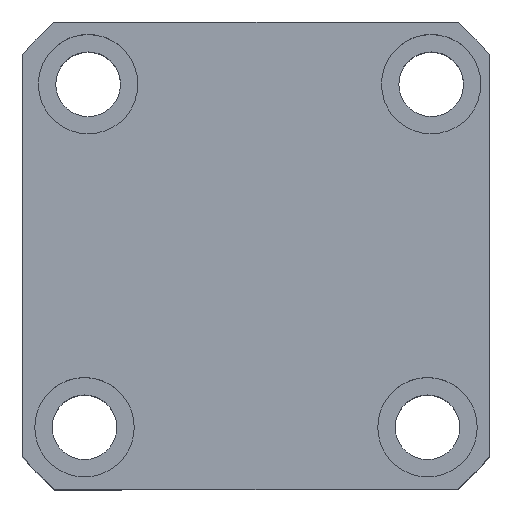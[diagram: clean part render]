
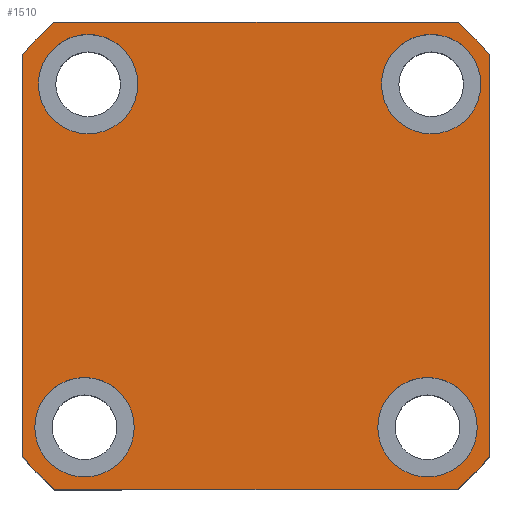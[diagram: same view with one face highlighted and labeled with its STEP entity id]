
A CAD part, top view. The second image highlights one B-rep face of the part: STEP entity #1510.
In plain terms, the highlighted planar face has unit normal (0, 0, 1) as drawn and (0, 0, -1) by its records, which use the part's own axes.
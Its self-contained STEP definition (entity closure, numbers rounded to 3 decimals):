
#244 = EDGE_CURVE ( 'NONE', #12025, #11420, #5661, .T. ) ;
#257 = FACE_BOUND ( 'NONE', #16293, .T. ) ;
#597 = VERTEX_POINT ( 'NONE', #14739 ) ;
#990 = DIRECTION ( 'NONE',  ( 1., 0., 0. ) ) ;
#1345 = CARTESIAN_POINT ( 'NONE',  ( 45.23, -34.5, 0. ) ) ;
#1382 = LINE ( 'NONE', #16254, #9189 ) ;
#1388 = CARTESIAN_POINT ( 'NONE',  ( 44.5, 34.5, 0. ) ) ;
#1510 = ADVANCED_FACE ( 'NONE', ( #14868, #4371, #257, #14449, #3933 ), #6510, .F. ) ;
#1556 = ORIENTED_EDGE ( 'NONE', *, *, #11514, .F. ) ;
#1712 = CIRCLE ( 'NONE', #11713, 10. ) ;
#1716 = VERTEX_POINT ( 'NONE', #5533 ) ;
#1844 = EDGE_CURVE ( 'NONE', #13152, #7749, #15499, .T. ) ;
#2021 = CIRCLE ( 'NONE', #10496, 62. ) ;
#2037 = VERTEX_POINT ( 'NONE', #14514 ) ;
#2469 = DIRECTION ( 'NONE',  ( 0., 0., -1. ) ) ;
#2503 = CIRCLE ( 'NONE', #17177, 10. ) ;
#2783 = DIRECTION ( 'NONE',  ( -1., 0., 0. ) ) ;
#2875 = ORIENTED_EDGE ( 'NONE', *, *, #6853, .F. ) ;
#2959 = EDGE_CURVE ( 'NONE', #14108, #4751, #3478, .T. ) ;
#3023 = ORIENTED_EDGE ( 'NONE', *, *, #12471, .F. ) ;
#3055 = EDGE_CURVE ( 'NONE', #2037, #14108, #13992, .T. ) ;
#3259 = EDGE_CURVE ( 'NONE', #17259, #13177, #12728, .T. ) ;
#3406 = DIRECTION ( 'NONE',  ( 0., 0., -1. ) ) ;
#3478 = LINE ( 'NONE', #5469, #10811 ) ;
#3672 = CARTESIAN_POINT ( 'NONE',  ( -40.435, -47., 0. ) ) ;
#3826 = VERTEX_POINT ( 'NONE', #13453 ) ;
#3933 = FACE_OUTER_BOUND ( 'NONE', #8887, .T. ) ;
#4005 = DIRECTION ( 'NONE',  ( 0., 0., -1. ) ) ;
#4066 = CARTESIAN_POINT ( 'NONE',  ( -33.77, -34.5, 0. ) ) ;
#4090 = CIRCLE ( 'NONE', #5853, 10. ) ;
#4156 = DIRECTION ( 'NONE',  ( 0., 0., 1. ) ) ;
#4371 = FACE_BOUND ( 'NONE', #9498, .T. ) ;
#4403 = ORIENTED_EDGE ( 'NONE', *, *, #3259, .F. ) ;
#4432 = AXIS2_PLACEMENT_3D ( 'NONE', #13082, #4876, #14455 ) ;
#4456 = VECTOR ( 'NONE', #6552, 1000. ) ;
#4509 = DIRECTION ( 'NONE',  ( 0., 0., -1. ) ) ;
#4573 = DIRECTION ( 'NONE',  ( 0., 0., -1. ) ) ;
#4575 = EDGE_CURVE ( 'NONE', #9891, #1716, #11650, .T. ) ;
#4605 = DIRECTION ( 'NONE',  ( 0., 0., -1. ) ) ;
#4631 = ORIENTED_EDGE ( 'NONE', *, *, #6927, .F. ) ;
#4751 = VERTEX_POINT ( 'NONE', #7804 ) ;
#4876 = DIRECTION ( 'NONE',  ( 0., 0., 1. ) ) ;
#4913 = AXIS2_PLACEMENT_3D ( 'NONE', #17374, #9292, #990 ) ;
#4946 = CIRCLE ( 'NONE', #11949, 10. ) ;
#5076 = ORIENTED_EDGE ( 'NONE', *, *, #17263, .F. ) ;
#5227 = AXIS2_PLACEMENT_3D ( 'NONE', #7687, #7002, #7125 ) ;
#5345 = DIRECTION ( 'NONE',  ( 1., 0., 0. ) ) ;
#5469 = CARTESIAN_POINT ( 'NONE',  ( -47., -47., 0. ) ) ;
#5533 = CARTESIAN_POINT ( 'NONE',  ( -47., 40.435, 0. ) ) ;
#5610 = CARTESIAN_POINT ( 'NONE',  ( 35.23, -34.5, 0. ) ) ;
#5661 = LINE ( 'NONE', #8331, #9348 ) ;
#5853 = AXIS2_PLACEMENT_3D ( 'NONE', #11657, #3406, #13020 ) ;
#6510 = PLANE ( 'NONE',  #15403 ) ;
#6552 = DIRECTION ( 'NONE',  ( -1., 0., 0. ) ) ;
#6553 = ORIENTED_EDGE ( 'NONE', *, *, #7395, .F. ) ;
#6648 = CARTESIAN_POINT ( 'NONE',  ( 47., 40.435, 0. ) ) ;
#6853 = EDGE_CURVE ( 'NONE', #9054, #597, #2503, .T. ) ;
#6927 = EDGE_CURVE ( 'NONE', #12754, #3826, #16665, .T. ) ;
#6993 = DIRECTION ( 'NONE',  ( -1., 0., 0. ) ) ;
#7002 = DIRECTION ( 'NONE',  ( 0., 0., 1. ) ) ;
#7008 = ORIENTED_EDGE ( 'NONE', *, *, #15155, .F. ) ;
#7125 = DIRECTION ( 'NONE',  ( 1., 0., 0. ) ) ;
#7230 = ORIENTED_EDGE ( 'NONE', *, *, #4575, .F. ) ;
#7324 = EDGE_CURVE ( 'NONE', #11420, #14268, #15376, .T. ) ;
#7395 = EDGE_CURVE ( 'NONE', #14268, #9891, #12195, .T. ) ;
#7687 = CARTESIAN_POINT ( 'NONE',  ( 0., 0., 0. ) ) ;
#7749 = VERTEX_POINT ( 'NONE', #1388 ) ;
#7791 = CARTESIAN_POINT ( 'NONE',  ( -43.77, -34.5, 0. ) ) ;
#7804 = CARTESIAN_POINT ( 'NONE',  ( 40.435, -47., 0. ) ) ;
#7832 = CARTESIAN_POINT ( 'NONE',  ( -40.435, 47., 0. ) ) ;
#8310 = DIRECTION ( 'NONE',  ( 0., 1., 0. ) ) ;
#8331 = CARTESIAN_POINT ( 'NONE',  ( 47., 47., 0. ) ) ;
#8509 = ORIENTED_EDGE ( 'NONE', *, *, #2959, .F. ) ;
#8703 = CARTESIAN_POINT ( 'NONE',  ( -24.5, 34.5, 0. ) ) ;
#8711 = AXIS2_PLACEMENT_3D ( 'NONE', #9765, #11482, #12434 ) ;
#8887 = EDGE_LOOP ( 'NONE', ( #10786, #13966, #3023, #8509, #12962, #1556, #7230, #6553 ) ) ;
#9054 = VERTEX_POINT ( 'NONE', #1345 ) ;
#9189 = VECTOR ( 'NONE', #12156, 1000. ) ;
#9230 = CARTESIAN_POINT ( 'NONE',  ( 40.435, 47., 0. ) ) ;
#9292 = DIRECTION ( 'NONE',  ( 0., 0., 1. ) ) ;
#9348 = VECTOR ( 'NONE', #8310, 1000. ) ;
#9498 = EDGE_LOOP ( 'NONE', ( #12564, #4403 ) ) ;
#9765 = CARTESIAN_POINT ( 'NONE',  ( 34.5, 34.5, 0. ) ) ;
#9891 = VERTEX_POINT ( 'NONE', #7832 ) ;
#10034 = ORIENTED_EDGE ( 'NONE', *, *, #15632, .F. ) ;
#10496 = AXIS2_PLACEMENT_3D ( 'NONE', #12373, #4156, #13728 ) ;
#10535 = CIRCLE ( 'NONE', #11609, 10. ) ;
#10569 = EDGE_LOOP ( 'NONE', ( #14700, #10034 ) ) ;
#10716 = CARTESIAN_POINT ( 'NONE',  ( -33.77, -34.5, 0. ) ) ;
#10786 = ORIENTED_EDGE ( 'NONE', *, *, #7324, .F. ) ;
#10811 = VECTOR ( 'NONE', #11164, 1000. ) ;
#11164 = DIRECTION ( 'NONE',  ( 1., 0., 0. ) ) ;
#11420 = VERTEX_POINT ( 'NONE', #6648 ) ;
#11482 = DIRECTION ( 'NONE',  ( 0., 0., -1. ) ) ;
#11514 = EDGE_CURVE ( 'NONE', #1716, #2037, #1382, .T. ) ;
#11609 = AXIS2_PLACEMENT_3D ( 'NONE', #10716, #2469, #12094 ) ;
#11650 = CIRCLE ( 'NONE', #4432, 62. ) ;
#11657 = CARTESIAN_POINT ( 'NONE',  ( 34.5, 34.5, 0. ) ) ;
#11713 = AXIS2_PLACEMENT_3D ( 'NONE', #5610, #15163, #6993 ) ;
#11910 = CARTESIAN_POINT ( 'NONE',  ( 47., -40.435, 0. ) ) ;
#11949 = AXIS2_PLACEMENT_3D ( 'NONE', #12816, #4605, #14180 ) ;
#12025 = VERTEX_POINT ( 'NONE', #11910 ) ;
#12094 = DIRECTION ( 'NONE',  ( -1., 0., 0. ) ) ;
#12156 = DIRECTION ( 'NONE',  ( 0., -1., 0. ) ) ;
#12195 = LINE ( 'NONE', #16226, #4456 ) ;
#12373 = CARTESIAN_POINT ( 'NONE',  ( 0., 0., 0. ) ) ;
#12434 = DIRECTION ( 'NONE',  ( -1., 0., 0. ) ) ;
#12450 = DIRECTION ( 'NONE',  ( 0., 0., 1. ) ) ;
#12471 = EDGE_CURVE ( 'NONE', #4751, #12025, #2021, .T. ) ;
#12564 = ORIENTED_EDGE ( 'NONE', *, *, #17578, .F. ) ;
#12575 = AXIS2_PLACEMENT_3D ( 'NONE', #4066, #4005, #2783 ) ;
#12728 = CIRCLE ( 'NONE', #12575, 10. ) ;
#12733 = CARTESIAN_POINT ( 'NONE',  ( 35.23, -34.5, 0. ) ) ;
#12754 = VERTEX_POINT ( 'NONE', #8703 ) ;
#12790 = CARTESIAN_POINT ( 'NONE',  ( -34.5, 34.5, 0. ) ) ;
#12816 = CARTESIAN_POINT ( 'NONE',  ( -34.5, 34.5, 0. ) ) ;
#12962 = ORIENTED_EDGE ( 'NONE', *, *, #3055, .F. ) ;
#13020 = DIRECTION ( 'NONE',  ( -1., 0., 0. ) ) ;
#13082 = CARTESIAN_POINT ( 'NONE',  ( 0., 0., 0. ) ) ;
#13152 = VERTEX_POINT ( 'NONE', #14510 ) ;
#13177 = VERTEX_POINT ( 'NONE', #7791 ) ;
#13326 = EDGE_LOOP ( 'NONE', ( #7008, #2875 ) ) ;
#13453 = CARTESIAN_POINT ( 'NONE',  ( -44.5, 34.5, 0. ) ) ;
#13728 = DIRECTION ( 'NONE',  ( 1., 0., 0. ) ) ;
#13966 = ORIENTED_EDGE ( 'NONE', *, *, #244, .F. ) ;
#13992 = CIRCLE ( 'NONE', #5227, 62. ) ;
#14084 = DIRECTION ( 'NONE',  ( -1., 0., 0. ) ) ;
#14108 = VERTEX_POINT ( 'NONE', #3672 ) ;
#14143 = DIRECTION ( 'NONE',  ( -1., 0., 0. ) ) ;
#14180 = DIRECTION ( 'NONE',  ( -1., 0., 0. ) ) ;
#14268 = VERTEX_POINT ( 'NONE', #9230 ) ;
#14449 = FACE_BOUND ( 'NONE', #10569, .T. ) ;
#14455 = DIRECTION ( 'NONE',  ( 1., 0., 0. ) ) ;
#14510 = CARTESIAN_POINT ( 'NONE',  ( 24.5, 34.5, 0. ) ) ;
#14514 = CARTESIAN_POINT ( 'NONE',  ( -47., -40.435, 0. ) ) ;
#14700 = ORIENTED_EDGE ( 'NONE', *, *, #1844, .F. ) ;
#14739 = CARTESIAN_POINT ( 'NONE',  ( 25.23, -34.5, 0. ) ) ;
#14868 = FACE_BOUND ( 'NONE', #13326, .T. ) ;
#15155 = EDGE_CURVE ( 'NONE', #597, #9054, #1712, .T. ) ;
#15163 = DIRECTION ( 'NONE',  ( 0., 0., -1. ) ) ;
#15376 = CIRCLE ( 'NONE', #4913, 62. ) ;
#15403 = AXIS2_PLACEMENT_3D ( 'NONE', #15972, #12450, #5345 ) ;
#15499 = CIRCLE ( 'NONE', #8711, 10. ) ;
#15632 = EDGE_CURVE ( 'NONE', #7749, #13152, #4090, .T. ) ;
#15972 = CARTESIAN_POINT ( 'NONE',  ( 0., 0., 0. ) ) ;
#16226 = CARTESIAN_POINT ( 'NONE',  ( -47., 47., 0. ) ) ;
#16243 = AXIS2_PLACEMENT_3D ( 'NONE', #12790, #4573, #14143 ) ;
#16254 = CARTESIAN_POINT ( 'NONE',  ( -47., 47., 0. ) ) ;
#16293 = EDGE_LOOP ( 'NONE', ( #5076, #4631 ) ) ;
#16665 = CIRCLE ( 'NONE', #16243, 10. ) ;
#16864 = CARTESIAN_POINT ( 'NONE',  ( -23.77, -34.5, 0. ) ) ;
#17177 = AXIS2_PLACEMENT_3D ( 'NONE', #12733, #4509, #14084 ) ;
#17259 = VERTEX_POINT ( 'NONE', #16864 ) ;
#17263 = EDGE_CURVE ( 'NONE', #3826, #12754, #4946, .T. ) ;
#17374 = CARTESIAN_POINT ( 'NONE',  ( 0., 0., 0. ) ) ;
#17578 = EDGE_CURVE ( 'NONE', #13177, #17259, #10535, .T. ) ;
